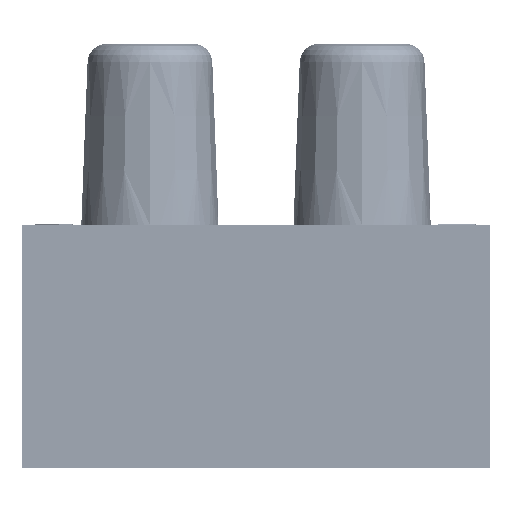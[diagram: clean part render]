
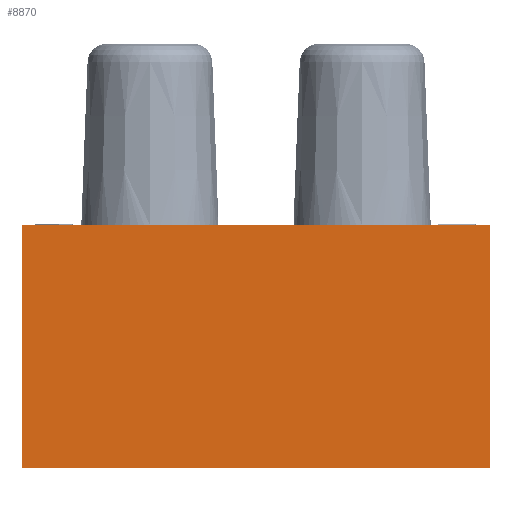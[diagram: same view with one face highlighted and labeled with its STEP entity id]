
A CAD part, left-side view. The second image highlights one B-rep face of the part: STEP entity #8870.
In plain terms, the highlighted planar face has unit normal (-1, 0, 0).
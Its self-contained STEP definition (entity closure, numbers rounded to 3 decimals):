
#911=CARTESIAN_POINT('',(0.,0.,0.));
#912=VERTEX_POINT('',#911);
#919=CARTESIAN_POINT('',(0.,37.5,0.));
#920=VERTEX_POINT('',#919);
#921=CARTESIAN_POINT('',(0.,37.5,0.));
#922=DIRECTION('',(0.,-1.,0.));
#923=VECTOR('',#922,37.5);
#924=LINE('',#921,#923);
#925=EDGE_CURVE('',#920,#912,#924,.T.);
#978=CARTESIAN_POINT('',(0.,0.,19.5));
#979=VERTEX_POINT('',#978);
#986=CARTESIAN_POINT('',(0.,0.,0.));
#987=DIRECTION('',(0.,0.,1.));
#988=VECTOR('',#987,19.5);
#989=LINE('',#986,#988);
#990=EDGE_CURVE('',#912,#979,#989,.T.);
#3033=CARTESIAN_POINT('',(0.,37.5,19.5));
#3034=VERTEX_POINT('',#3033);
#3041=CARTESIAN_POINT('',(0.,37.5,19.5));
#3042=DIRECTION('',(0.,-1.,0.));
#3043=VECTOR('',#3042,37.5);
#3044=LINE('',#3041,#3043);
#3045=EDGE_CURVE('',#3034,#979,#3044,.T.);
#8854=CARTESIAN_POINT('',(0.,37.5,9.75));
#8855=DIRECTION('',(1.,0.,0.));
#8856=DIRECTION('',(0.,0.,-1.));
#8857=AXIS2_PLACEMENT_3D('',#8854,#8855,#8856);
#8858=PLANE('',#8857);
#8859=ORIENTED_EDGE('',*,*,#990,.T.);
#8860=ORIENTED_EDGE('',*,*,#3045,.F.);
#8861=CARTESIAN_POINT('',(0.,37.5,0.));
#8862=DIRECTION('',(0.,0.,1.));
#8863=VECTOR('',#8862,19.5);
#8864=LINE('',#8861,#8863);
#8865=EDGE_CURVE('',#920,#3034,#8864,.T.);
#8866=ORIENTED_EDGE('',*,*,#8865,.F.);
#8867=ORIENTED_EDGE('',*,*,#925,.T.);
#8868=EDGE_LOOP('',(#8859,#8860,#8866,#8867));
#8869=FACE_BOUND('',#8868,.T.);
#8870=ADVANCED_FACE('',(#8869),#8858,.F.);
